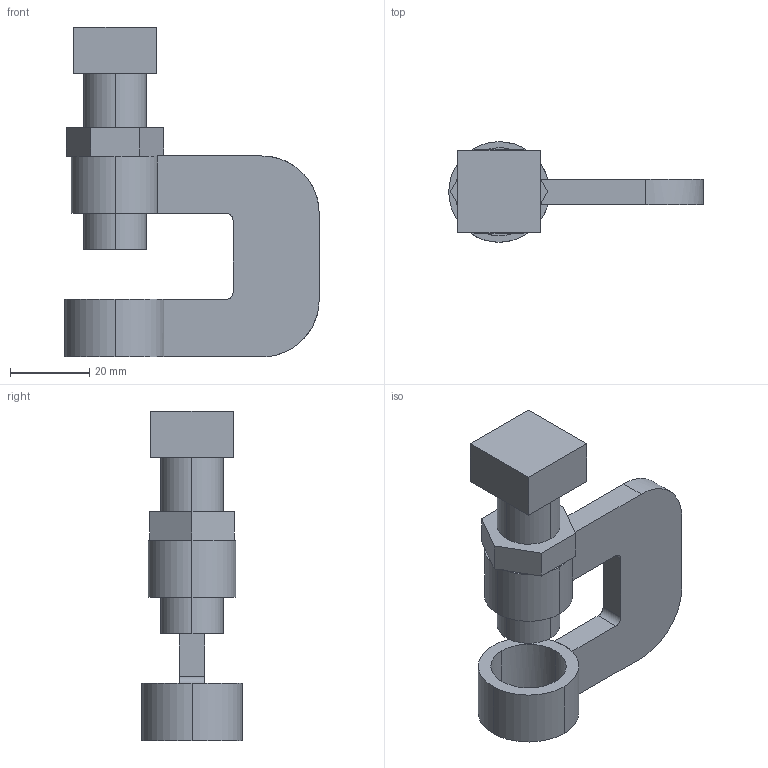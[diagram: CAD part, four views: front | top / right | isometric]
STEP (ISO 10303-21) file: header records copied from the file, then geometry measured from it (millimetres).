
FILE_DESCRIPTION(('TurboCAD Mac Pro'),'Build 980');
FILE_NAME('P2896-75.stp',' ',(''),(''),'ACIS Interop','IMSI','TurboCAD Mac Pro BY IMSI, INCORPORATED');
FILE_SCHEMA(('automotive_design'));
Length unit declared in the file: inch
Products named in the file (3): 1; 2; 3
Bounding box: 64.3 x 25.4 x 83.38 mm (x, y, z)
Volume: 31050.9 mm3; surface area: 13963.6 mm2
Topology: 3 solids, 3 shells, 57 faces, 150 edges, 100 vertices
Faces by surface type: plane 29, bspline 28
Entity records: 2438 total; most frequent: CARTESIAN_POINT 690, ORIENTED_EDGE 300, DIRECTION 154, EDGE_CURVE 150, VERTEX_POINT 100, LINE 90, VECTOR 90, EDGE_LOOP 64
